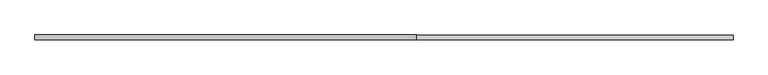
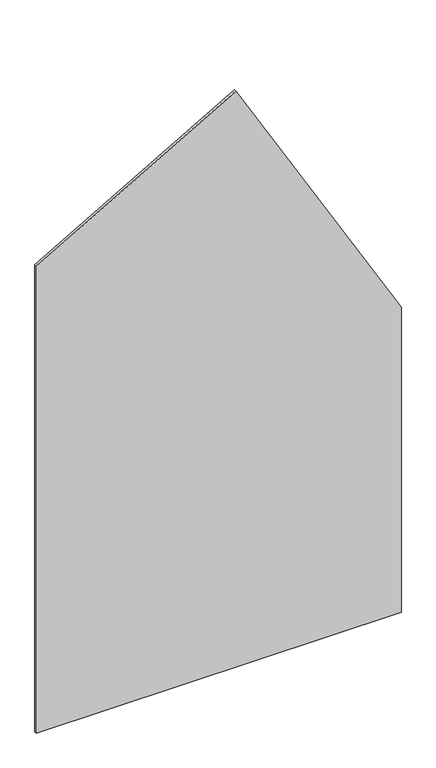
"""IFC4 building model written with IfcOpenShell, lengths in millimetres: plate geometry, 系統嵌板 : 玻璃 1.0cm."""

from ifc_helpers import new_model, si_unit, frame, origin, place, context, project, spatial, polyline, outline, extrude, source, transform, mapped, element, save


def plate_8d21edd0(model_context):
    return source(origin(), model_context, "Body", "SweptSolid", [
        extrude(outline(polyline([(0.0, -750.0), (0.0, 750.0), (1323.0854638, 750.0), (2500.0, 70.5080757), (2026.2794416, -750.0), (0.0, -750.0)])), frame((0.0, -5.0, 0.0), z_axis=(0.0, 1.0, 0.0), x_axis=(0.0, 0.0, 1.0)), (0.0, 0.0, 1.0), 10.0),
    ])


if __name__ == "__main__":
    model = new_model("IFC4")
    model_context = context("Model", 3, world=origin())
    ifc_project = project(units=[si_unit("LENGTHUNIT", "METRE", prefix="MILLI")], contexts=[model_context])
    site = spatial("IfcSite", under=ifc_project)
    building = spatial("IfcBuilding", under=site)
    placement = place(None, origin())
    plate_shape = plate_8d21edd0(model_context)
    element("IfcPlate", 1, ObjectType="系統嵌板 : 玻璃 1.0cm", at=placement, inside=building, context=model_context, shape_type="MappedRepresentation", body=[
        mapped(plate_shape, transform((0.0, 0.0, 0.0), x_axis=(1.0, 0.0, 0.0), y_axis=(0.0, 1.0, 0.0), z_axis=(0.0, 0.0, 1.0))),
    ])
    save(model, "model.ifc")
